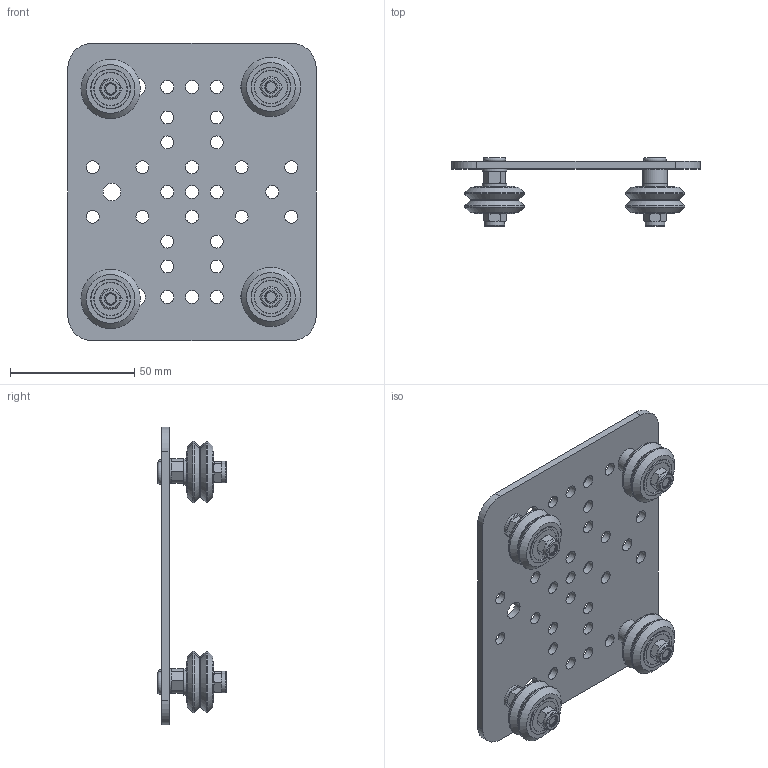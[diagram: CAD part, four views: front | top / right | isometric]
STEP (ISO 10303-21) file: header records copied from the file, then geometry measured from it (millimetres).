
FILE_DESCRIPTION(/* description */ (''),/* implementation_level */ '2;1');
FILE_NAME(/* name */ 'MotionRail Gantry Plate - Medium - Assembly.step',/* time_stamp */ '2026-05-13T15:08:56+03:00',/* author */ (''),/* organization */ (''),/* preprocessor_version */ 'ST-DEVELOPER v20.1',/* originating_system */ 'Autodesk Translation Framework v15.8.0.0',/* authorisation */ '');
FILE_SCHEMA (('AUTOMOTIVE_DESIGN { 1 0 10303 214 3 1 1 }'));
Length unit declared in the file: millimetre
Products named in the file (24): MotionRail Gantry Plate Kit - Medium; Wheel Set - Eccentric 1; MotionRail Wheel - Assembly; MS-009 V-Slot/MotionRail Bearing Kit; Wheel Set - Eccentric 1_1; Mini Eccentric Spacer 6mm; MotionRail Wheel - Assembly_1; MS-009 V-Slot/MotionRail Bearing Kit_1; Wheel Set - Aluminum 1; MotionRail Wheel - Assembly_2; MS-009 V-Slot/MotionRail Bearing Kit_2; Wheel Set - Aluminum 1_1; M5x25mm Low Profile Bolt; Precision Shim 10 x 5 x 1; Aluminium Spacer -  5mm - 6mm; M5 Nyloc Nut - DIN 985 - A2 Stainless Steel; Hexagon Nut DIN 985 - M5 Stainless Steel A2 Plain v1; MotionRail Wheel - Assembly_3; Delrin V Wheel; MS-009 V-Slot/MotionRail Bearing Kit_3; Precision Shim 10 x 5 x 1_1; 625 2RS; 625 2RS_1; Open Rail Gantry Plate 40mm
Assembly tree (46 placements, depth 5):
  MotionRail Gantry Plate Kit - Medium
    Wheel Set - Eccentric 1
      M5x25mm Low Profile Bolt
      M5 Nyloc Nut - DIN 985 - A2 Stainless Steel
        Hexagon Nut DIN 985 - M5 Stainless Steel A2 Plain v1
      Precision Shim 10 x 5 x 1
      Mini Eccentric Spacer 6mm
      MotionRail Wheel - Assembly
        Delrin V Wheel
        MS-009 V-Slot/MotionRail Bearing Kit
          Precision Shim 10 x 5 x 1_1
          625 2RS
          625 2RS_1
    Wheel Set - Eccentric 1_1
      M5x25mm Low Profile Bolt
      M5 Nyloc Nut - DIN 985 - A2 Stainless Steel
        Hexagon Nut DIN 985 - M5 Stainless Steel A2 Plain v1
      Precision Shim 10 x 5 x 1
      Mini Eccentric Spacer 6mm
      MotionRail Wheel - Assembly_1
        Delrin V Wheel
        MS-009 V-Slot/MotionRail Bearing Kit_1
          Precision Shim 10 x 5 x 1_1
          625 2RS
          625 2RS_1
    Wheel Set - Aluminum 1
      M5x25mm Low Profile Bolt
      Precision Shim 10 x 5 x 1
      Aluminium Spacer -  5mm - 6mm
      M5 Nyloc Nut - DIN 985 - A2 Stainless Steel
        Hexagon Nut DIN 985 - M5 Stainless Steel A2 Plain v1
      MotionRail Wheel - Assembly_2
        Delrin V Wheel
        MS-009 V-Slot/MotionRail Bearing Kit_2
          Precision Shim 10 x 5 x 1_1
          625 2RS
          625 2RS_1
    Wheel Set - Aluminum 1_1
      M5x25mm Low Profile Bolt
      Precision Shim 10 x 5 x 1
      Aluminium Spacer -  5mm - 6mm
      M5 Nyloc Nut - DIN 985 - A2 Stainless Steel
        Hexagon Nut DIN 985 - M5 Stainless Steel A2 Plain v1
      MotionRail Wheel - Assembly_3
        Delrin V Wheel
        MS-009 V-Slot/MotionRail Bearing Kit_3
          Precision Shim 10 x 5 x 1_1
          625 2RS
          625 2RS_1
    Open Rail Gantry Plate 40mm
Bounding box: 100 x 27.5 x 120 mm (x, y, z)
Volume: 51930.9 mm3; surface area: 50437.2 mm2
Topology: 77 solids, 77 shells, 979 faces, 2171 edges, 1414 vertices
Faces by surface type: cylinder 479, plane 288, cone 132, torus 72, bspline 8
Full cylindrical faces by diameter (mm): 3.99 x36, 4.234 x8, 4.901 x72, 5 x24, 5.2 x32, 7.1 x5, 7.11 x2, 7.261 x8, 8 x4, 8.4 x32, 10 x10, 13.3 x32, 13.9 x4, 16 x16, 18.75 x4, 23.9 x8
Entity records: 12921 total; most frequent: CARTESIAN_POINT 5474, DIRECTION 1473, ORIENTED_EDGE 1346, EDGE_CURVE 673, AXIS2_PLACEMENT_3D 614, VERTEX_POINT 440, EDGE_LOOP 411, FACE_OUTER_BOUND 293
